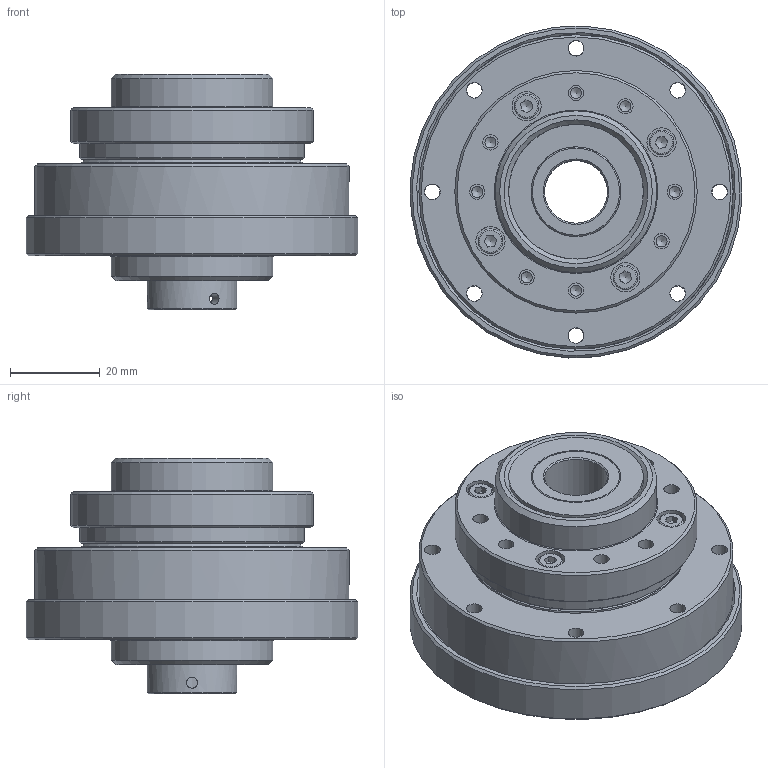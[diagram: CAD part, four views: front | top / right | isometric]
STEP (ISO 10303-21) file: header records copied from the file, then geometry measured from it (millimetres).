
FILE_DESCRIPTION(/* description */ (''),/* implementation_level */ '2;1');
FILE_NAME(/* name */ 'S:\TB00F\研發課二組\機密級\1.\X2\8A2D8A08\X0\\01-DT\DT圖面-y\2.組合圖\\X2\6A21578B\X0\\WTI-S-XX-AH\WTI-S-14-AH模型\WTI-S-14-XX-AH.stp',/* time_stamp */ '2018-10-29T14:44:37+08:00',/* author */ ('yin210'),/* organization */ (''),/* preprocessor_version */ 'ST-DEVELOPER v15.2',/* originating_system */ 'Autodesk Inventor 2014',/* authorisation */ '');
FILE_SCHEMA (('AUTOMOTIVE_DESIGN { 1 0 10303 214 3 1 1 }'));
Length unit declared in the file: centimetre
Products named in the file (1): AK0003T1
Bounding box: 73.93 x 73.93 x 52.5 mm (x, y, z)
Volume: 113519.2 mm3; surface area: 24074.4 mm2
Topology: 1 solids, 1 shells, 212 faces, 482 edges, 322 vertices
Faces by surface type: plane 88, cylinder 69, cone 47, torus 6, bspline 2
Full cylindrical faces by diameter (mm): 2.459 x11, 3.4 x16, 3.5 x16, 5.5 x4, 5.7 x2, 6.5 x6, 14 x2, 14.5 x1, 20 x2, 30 x2, 36 x2, 49 x1, 50 x1, 54 x1, 70 x1, 74 x1
Entity records: 5239 total; most frequent: CARTESIAN_POINT 1103, DIRECTION 852, ORIENTED_EDGE 596, EDGE_LOOP 408, AXIS2_PLACEMENT_3D 390, EDGE_CURVE 298, VERTEX_POINT 260, FACE_BOUND 234
